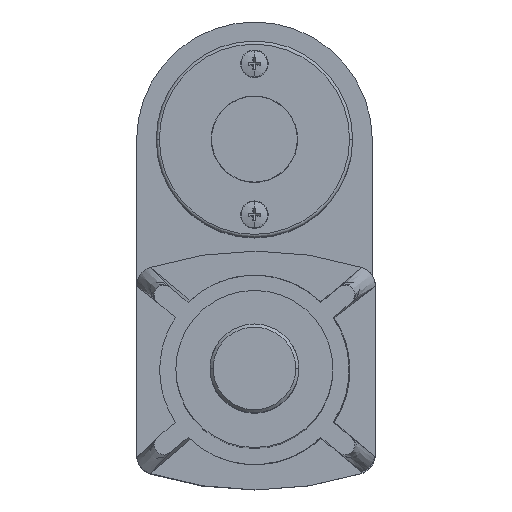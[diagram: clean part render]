
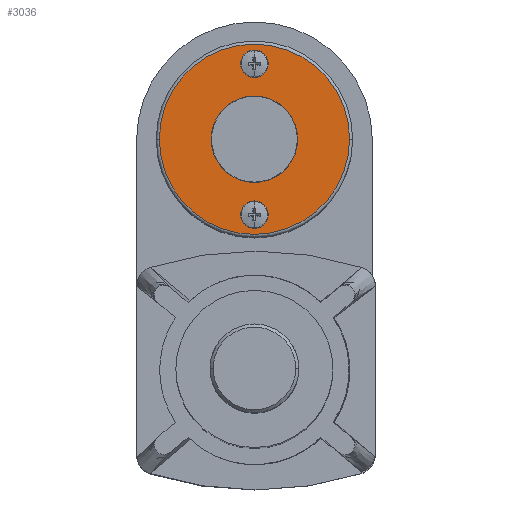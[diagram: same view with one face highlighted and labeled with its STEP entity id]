
A CAD part, top view. The second image highlights one B-rep face of the part: STEP entity #3036.
In plain terms, the highlighted planar face has unit normal (0, 0, 1).
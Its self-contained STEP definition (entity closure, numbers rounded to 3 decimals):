
#96 = CIRCLE ( 'NONE', #10693, 2.54 ) ;
#147 = ORIENTED_EDGE ( 'NONE', *, *, #8515, .F. ) ;
#378 = AXIS2_PLACEMENT_3D ( 'NONE', #7006, #4299, #3451 ) ;
#425 = DIRECTION ( 'NONE',  ( -1., 0., 0. ) ) ;
#534 = CARTESIAN_POINT ( 'NONE',  ( 38.608, -7.238, 406.098 ) ) ;
#551 = FACE_BOUND ( 'NONE', #1667, .T. ) ;
#621 = CIRCLE ( 'NONE', #9889, 2.54 ) ;
#770 = DIRECTION ( 'NONE',  ( -1., 0., 0. ) ) ;
#1434 = ORIENTED_EDGE ( 'NONE', *, *, #3511, .F. ) ;
#1573 = CIRCLE ( 'NONE', #9335, 30.75 ) ;
#1637 = VERTEX_POINT ( 'NONE', #10278 ) ;
#1667 = EDGE_LOOP ( 'NONE', ( #5893, #147 ) ) ;
#1745 = CARTESIAN_POINT ( 'NONE',  ( 38.608, -56.038, 406.098 ) ) ;
#2171 = CARTESIAN_POINT ( 'NONE',  ( 38.608, -56.038, 406.098 ) ) ;
#3036 = ADVANCED_FACE ( 'NONE', ( #6163, #551, #4131 ), #9555, .T. ) ;
#3157 = DIRECTION ( 'NONE',  ( -1., 0., 0. ) ) ;
#3451 = DIRECTION ( 'NONE',  ( -1., 0., 0. ) ) ;
#3511 = EDGE_CURVE ( 'NONE', #3983, #4764, #621, .T. ) ;
#3638 = DIRECTION ( 'NONE',  ( 0., 0., 1. ) ) ;
#3639 = CARTESIAN_POINT ( 'NONE',  ( 36.068, -7.238, 406.098 ) ) ;
#3897 = DIRECTION ( 'NONE',  ( 0., 0., 1. ) ) ;
#3980 = CARTESIAN_POINT ( 'NONE',  ( 38.608, -31.638, 406.098 ) ) ;
#3983 = VERTEX_POINT ( 'NONE', #9837 ) ;
#4108 = EDGE_CURVE ( 'NONE', #9101, #10238, #96, .T. ) ;
#4111 = DIRECTION ( 'NONE',  ( -1., 0., 0. ) ) ;
#4131 = FACE_OUTER_BOUND ( 'NONE', #6793, .T. ) ;
#4216 = AXIS2_PLACEMENT_3D ( 'NONE', #3980, #10113, #5728 ) ;
#4299 = DIRECTION ( 'NONE',  ( 0., 0., 1. ) ) ;
#4764 = VERTEX_POINT ( 'NONE', #5407 ) ;
#4837 = DIRECTION ( 'NONE',  ( 0., 0., 1. ) ) ;
#4946 = ORIENTED_EDGE ( 'NONE', *, *, #8898, .T. ) ;
#4993 = CIRCLE ( 'NONE', #8388, 2.54 ) ;
#5159 = CARTESIAN_POINT ( 'NONE',  ( 38.608, -31.638, 406.098 ) ) ;
#5407 = CARTESIAN_POINT ( 'NONE',  ( 36.068, -56.038, 406.098 ) ) ;
#5728 = DIRECTION ( 'NONE',  ( -1., 0., 0. ) ) ;
#5893 = ORIENTED_EDGE ( 'NONE', *, *, #4108, .F. ) ;
#6163 = FACE_BOUND ( 'NONE', #11128, .T. ) ;
#6676 = EDGE_CURVE ( 'NONE', #4764, #3983, #4993, .T. ) ;
#6793 = EDGE_LOOP ( 'NONE', ( #4946, #9584 ) ) ;
#6870 = EDGE_CURVE ( 'NONE', #9471, #1637, #1573, .T. ) ;
#7006 = CARTESIAN_POINT ( 'NONE',  ( 38.608, -7.238, 406.098 ) ) ;
#7079 = DIRECTION ( 'NONE',  ( -1., 0., 0. ) ) ;
#7666 = AXIS2_PLACEMENT_3D ( 'NONE', #5159, #10437, #770 ) ;
#7721 = DIRECTION ( 'NONE',  ( 0., 0., 1. ) ) ;
#8142 = CIRCLE ( 'NONE', #378, 2.54 ) ;
#8388 = AXIS2_PLACEMENT_3D ( 'NONE', #2171, #4837, #3157 ) ;
#8515 = EDGE_CURVE ( 'NONE', #10238, #9101, #8142, .T. ) ;
#8524 = CARTESIAN_POINT ( 'NONE',  ( 38.608, -31.638, 406.098 ) ) ;
#8898 = EDGE_CURVE ( 'NONE', #1637, #9471, #9902, .T. ) ;
#9101 = VERTEX_POINT ( 'NONE', #3639 ) ;
#9335 = AXIS2_PLACEMENT_3D ( 'NONE', #8524, #7721, #4111 ) ;
#9471 = VERTEX_POINT ( 'NONE', #9558 ) ;
#9555 = PLANE ( 'NONE',  #7666 ) ;
#9558 = CARTESIAN_POINT ( 'NONE',  ( 69.358, -31.638, 406.098 ) ) ;
#9584 = ORIENTED_EDGE ( 'NONE', *, *, #6870, .T. ) ;
#9837 = CARTESIAN_POINT ( 'NONE',  ( 41.148, -56.038, 406.098 ) ) ;
#9889 = AXIS2_PLACEMENT_3D ( 'NONE', #1745, #3638, #7079 ) ;
#9902 = CIRCLE ( 'NONE', #4216, 30.75 ) ;
#10113 = DIRECTION ( 'NONE',  ( 0., 0., 1. ) ) ;
#10238 = VERTEX_POINT ( 'NONE', #10680 ) ;
#10278 = CARTESIAN_POINT ( 'NONE',  ( 7.858, -31.638, 406.098 ) ) ;
#10437 = DIRECTION ( 'NONE',  ( 0., 0., 1. ) ) ;
#10466 = ORIENTED_EDGE ( 'NONE', *, *, #6676, .F. ) ;
#10680 = CARTESIAN_POINT ( 'NONE',  ( 41.148, -7.238, 406.098 ) ) ;
#10693 = AXIS2_PLACEMENT_3D ( 'NONE', #534, #3897, #425 ) ;
#11128 = EDGE_LOOP ( 'NONE', ( #10466, #1434 ) ) ;
